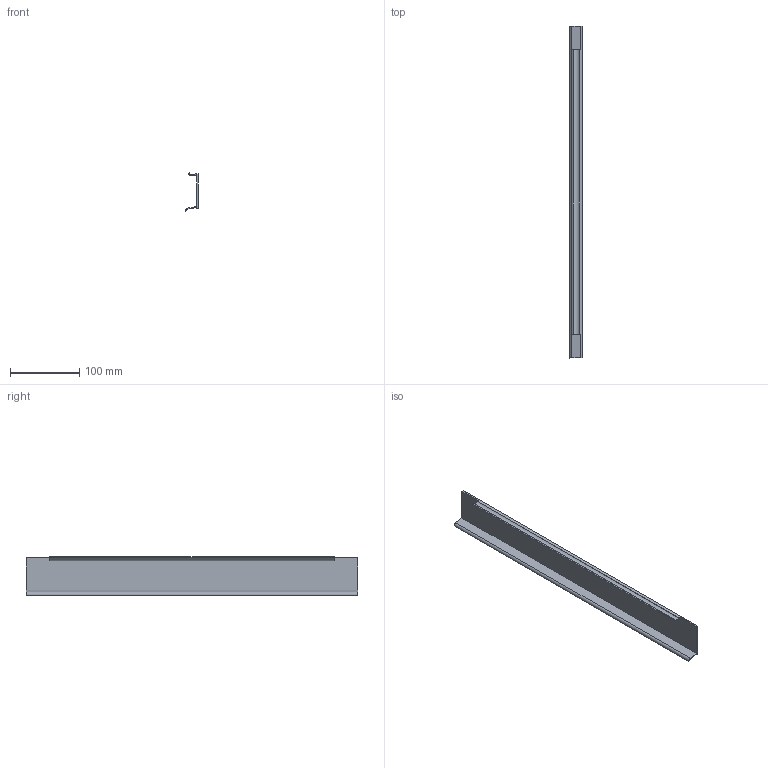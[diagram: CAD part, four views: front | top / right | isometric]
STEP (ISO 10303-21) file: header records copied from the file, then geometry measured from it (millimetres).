
FILE_DESCRIPTION (( 'STEP AP214' ), '1' );
FILE_NAME ('Sidecover_NL-500.step', '2010-09-21T06:52:14', ( 'grass' ), ( '' ), 'SwSTEP 2.0', 'SolidWorks 2010', '' );
FILE_SCHEMA (( 'AUTOMOTIVE_DESIGN' ));
Length unit declared in the file: millimetre
Products named in the file (1): Sidecover_NL-500
Bounding box: 18.14 x 479.5 x 54.9 mm (x, y, z)
Volume: 78755 mm3; surface area: 76965.8 mm2
Topology: 1 solids, 1 shells, 19 faces, 51 edges, 34 vertices
Faces by surface type: plane 14, cylinder 5
Entity records: 629 total; most frequent: CARTESIAN_POINT 105, ORIENTED_EDGE 102, DIRECTION 101, EDGE_CURVE 51, LINE 41, VECTOR 41, VERTEX_POINT 34, AXIS2_PLACEMENT_3D 30
